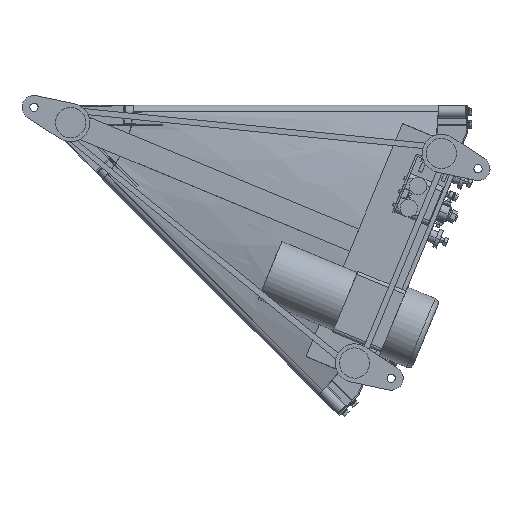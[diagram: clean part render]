
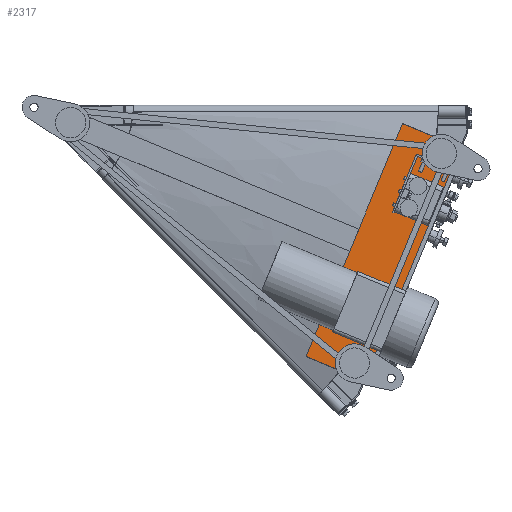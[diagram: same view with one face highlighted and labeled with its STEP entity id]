
A CAD part, front view. The second image highlights one B-rep face of the part: STEP entity #2317.
In plain terms, the highlighted planar face has unit normal (0, -1, 0).
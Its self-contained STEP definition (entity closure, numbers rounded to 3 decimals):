
#2317=ADVANCED_FACE('',(#5876),#5875,.F.);
#5875=PLANE('',#16045);
#5876=FACE_OUTER_BOUND('',#16046,.T.);
#16042=CARTESIAN_POINT('',(426.131,-167.5,-435.256));
#16043=DIRECTION('',(0.,1.,0.));
#16044=DIRECTION('',(0.078,0.,0.997));
#16045=AXIS2_PLACEMENT_3D('',#16042,#16043,#16044);
#16046=EDGE_LOOP('',(#21404,#21405,#21406,#21407,#21408,#21409));
#21404=ORIENTED_EDGE('',*,*,#25356,.F.);
#21405=ORIENTED_EDGE('',*,*,#25345,.F.);
#21406=ORIENTED_EDGE('',*,*,#25354,.F.);
#21407=ORIENTED_EDGE('',*,*,#25362,.F.);
#21408=ORIENTED_EDGE('',*,*,#25360,.F.);
#21409=ORIENTED_EDGE('',*,*,#25358,.F.);
#25345=EDGE_CURVE('',#31389,#31390,#31391,.T.);
#25354=EDGE_CURVE('',#31451,#31389,#31452,.T.);
#25356=EDGE_CURVE('',#31390,#31464,#31465,.T.);
#25358=EDGE_CURVE('',#31464,#31477,#31478,.T.);
#25360=EDGE_CURVE('',#31477,#31490,#31491,.T.);
#25362=EDGE_CURVE('',#31490,#31451,#31503,.T.);
#31389=VERTEX_POINT('',#45926);
#31390=VERTEX_POINT('',#45927);
#31391=LINE('',#45928,#45929);
#31451=VERTEX_POINT('',#45961);
#31452=LINE('',#45962,#45963);
#31464=VERTEX_POINT('',#45968);
#31465=LINE('',#45969,#45970);
#31477=VERTEX_POINT('',#45975);
#31478=LINE('',#45976,#45977);
#31490=VERTEX_POINT('',#45982);
#31491=LINE('',#45983,#45984);
#31503=LINE('',#45989,#45990);
#45926=CARTESIAN_POINT('',(592.14,-167.5,-28.794));
#45927=CARTESIAN_POINT('',(675.289,-167.5,-63.235));
#45928=CARTESIAN_POINT('',(592.14,-167.5,-28.794));
#45929=VECTOR('',#45930,90.);
#45930=DIRECTION('',(0.924,0.,-0.383));
#45961=CARTESIAN_POINT('',(439.067,-167.5,-398.346));
#45962=CARTESIAN_POINT('',(439.067,-167.5,-398.346));
#45963=VECTOR('',#45964,400.);
#45964=DIRECTION('',(0.383,0.,0.924));
#45968=CARTESIAN_POINT('',(680.701,-167.5,-76.301));
#45969=CARTESIAN_POINT('',(675.289,-167.5,-63.235));
#45970=VECTOR('',#45971,14.142);
#45971=DIRECTION('',(0.383,0.,-0.924));
#45975=CARTESIAN_POINT('',(535.281,-167.5,-427.375));
#45976=CARTESIAN_POINT('',(680.701,-167.5,-76.301));
#45977=VECTOR('',#45978,380.);
#45978=DIRECTION('',(-0.383,0.,-0.924));
#45982=CARTESIAN_POINT('',(522.216,-167.5,-432.787));
#45983=CARTESIAN_POINT('',(535.281,-167.5,-427.375));
#45984=VECTOR('',#45985,14.142);
#45985=DIRECTION('',(-0.924,0.,-0.383));
#45989=CARTESIAN_POINT('',(522.216,-167.5,-432.787));
#45990=VECTOR('',#45991,90.);
#45991=DIRECTION('',(-0.924,0.,0.383));
